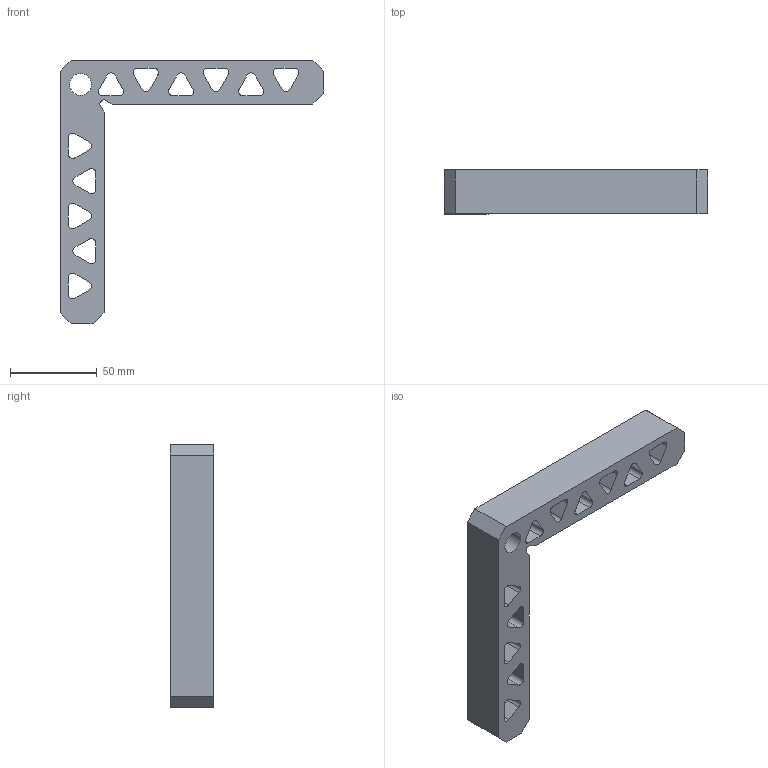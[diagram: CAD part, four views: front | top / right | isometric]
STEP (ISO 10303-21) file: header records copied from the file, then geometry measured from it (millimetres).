
FILE_DESCRIPTION(/* description */ (''),/* implementation_level */ '2;1');
FILE_NAME(/* name */ 'INNER_SUPPORT_CLAMP.step',/* time_stamp */ '2026-02-24T08:50:30-05:00',/* author */ (''),/* organization */ (''),/* preprocessor_version */ 'ST-DEVELOPER v20.1',/* originating_system */ 'Autodesk Translation Framework v14.24.0.0',/* authorisation */ '');
FILE_SCHEMA (('AUTOMOTIVE_DESIGN { 1 0 10303 214 3 1 1 }'));
Length unit declared in the file: inch
Products named in the file (1): INNER_SUPPORT_CLAMP
Bounding box: 152.4 x 25.4 x 152.4 mm (x, y, z)
Volume: 137097.2 mm3; surface area: 39395.3 mm2
Topology: 1 solids, 1 shells, 83 faces, 243 edges, 162 vertices
Faces by surface type: plane 48, cylinder 35
Full cylindrical faces by diameter (mm): 12.7 x1
Entity records: 2850 total; most frequent: CARTESIAN_POINT 489, ORIENTED_EDGE 486, DIRECTION 481, EDGE_CURVE 243, LINE 173, VECTOR 173, VERTEX_POINT 162, AXIS2_PLACEMENT_3D 154
